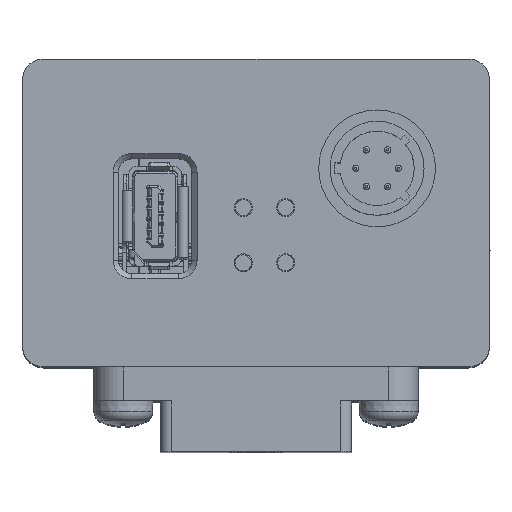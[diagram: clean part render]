
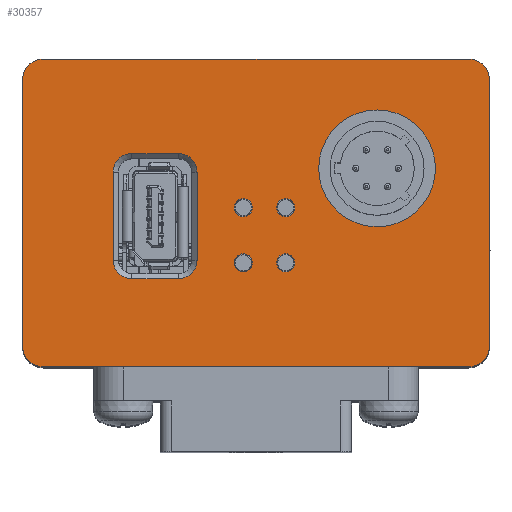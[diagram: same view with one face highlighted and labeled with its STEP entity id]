
A CAD part, top view. The second image highlights one B-rep face of the part: STEP entity #30357.
In plain terms, the highlighted planar face has unit normal (0, 0, 1).
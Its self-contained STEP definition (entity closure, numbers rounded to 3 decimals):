
#919=LINE('',#46922,#3485);
#923=LINE('',#46931,#3489);
#926=LINE('',#46939,#3492);
#928=LINE('',#46945,#3494);
#930=LINE('',#46954,#3496);
#931=LINE('',#46958,#3497);
#932=LINE('',#46962,#3498);
#933=LINE('',#46965,#3499);
#3485=VECTOR('',#37292,10.);
#3489=VECTOR('',#37302,10.);
#3492=VECTOR('',#37311,10.);
#3494=VECTOR('',#37319,10.);
#3496=VECTOR('',#37329,10.);
#3497=VECTOR('',#37332,10.);
#3498=VECTOR('',#37335,10.);
#3499=VECTOR('',#37338,10.);
#6369=PLANE('',#32710);
#7184=FACE_BOUND('',#9714,.T.);
#7185=FACE_BOUND('',#9715,.T.);
#7186=FACE_BOUND('',#9716,.T.);
#7187=FACE_BOUND('',#9717,.T.);
#7188=FACE_BOUND('',#9718,.T.);
#7189=FACE_BOUND('',#9719,.T.);
#7836=FACE_OUTER_BOUND('',#9713,.T.);
#9713=EDGE_LOOP('',(#21614,#21615,#21616,#21617,#21618,#21619,#21620,#21621));
#9714=EDGE_LOOP('',(#21622));
#9715=EDGE_LOOP('',(#21623));
#9716=EDGE_LOOP('',(#21624));
#9717=EDGE_LOOP('',(#21625));
#9718=EDGE_LOOP('',(#21626));
#9719=EDGE_LOOP('',(#21627,#21628,#21629,#21630,#21631,#21632,#21633,#21634));
#11332=CIRCLE('',#32193,5.5);
#11499=CIRCLE('',#32595,0.85);
#11501=CIRCLE('',#32600,0.85);
#11503=CIRCLE('',#32605,0.85);
#11505=CIRCLE('',#32610,0.85);
#11547=CIRCLE('',#32696,1.75);
#11549=CIRCLE('',#32700,1.75);
#11550=CIRCLE('',#32703,1.75);
#11551=CIRCLE('',#32706,1.75);
#11552=CIRCLE('',#32711,2.);
#11553=CIRCLE('',#32712,2.);
#11554=CIRCLE('',#32713,2.);
#11555=CIRCLE('',#32714,2.);
#12811=VERTEX_POINT('',#45317);
#13162=VERTEX_POINT('',#46586);
#13164=VERTEX_POINT('',#46593);
#13166=VERTEX_POINT('',#46600);
#13168=VERTEX_POINT('',#46607);
#13246=VERTEX_POINT('',#46913);
#13247=VERTEX_POINT('',#46915);
#13248=VERTEX_POINT('',#46920);
#13249=VERTEX_POINT('',#46925);
#13250=VERTEX_POINT('',#46929);
#13251=VERTEX_POINT('',#46933);
#13252=VERTEX_POINT('',#46937);
#13253=VERTEX_POINT('',#46941);
#13254=VERTEX_POINT('',#46950);
#13255=VERTEX_POINT('',#46951);
#13256=VERTEX_POINT('',#46953);
#13257=VERTEX_POINT('',#46955);
#13258=VERTEX_POINT('',#46957);
#13259=VERTEX_POINT('',#46959);
#13260=VERTEX_POINT('',#46961);
#13261=VERTEX_POINT('',#46963);
#15765=EDGE_CURVE('',#12811,#12811,#11332,.T.);
#16256=EDGE_CURVE('',#13162,#13162,#11499,.T.);
#16258=EDGE_CURVE('',#13164,#13164,#11501,.T.);
#16260=EDGE_CURVE('',#13166,#13166,#11503,.T.);
#16262=EDGE_CURVE('',#13168,#13168,#11505,.T.);
#16369=EDGE_CURVE('',#13246,#13247,#11547,.T.);
#16373=EDGE_CURVE('',#13248,#13246,#919,.T.);
#16376=EDGE_CURVE('',#13249,#13248,#11549,.T.);
#16378=EDGE_CURVE('',#13250,#13249,#923,.T.);
#16380=EDGE_CURVE('',#13251,#13250,#11550,.T.);
#16382=EDGE_CURVE('',#13252,#13251,#926,.T.);
#16384=EDGE_CURVE('',#13253,#13252,#11551,.T.);
#16385=EDGE_CURVE('',#13247,#13253,#928,.T.);
#16387=EDGE_CURVE('',#13254,#13255,#11552,.T.);
#16388=EDGE_CURVE('',#13254,#13256,#930,.T.);
#16389=EDGE_CURVE('',#13257,#13256,#11553,.T.);
#16390=EDGE_CURVE('',#13257,#13258,#931,.T.);
#16391=EDGE_CURVE('',#13259,#13258,#11554,.T.);
#16392=EDGE_CURVE('',#13259,#13260,#932,.T.);
#16393=EDGE_CURVE('',#13261,#13260,#11555,.T.);
#16394=EDGE_CURVE('',#13261,#13255,#933,.T.);
#21614=ORIENTED_EDGE('',*,*,#16387,.F.);
#21615=ORIENTED_EDGE('',*,*,#16388,.T.);
#21616=ORIENTED_EDGE('',*,*,#16389,.F.);
#21617=ORIENTED_EDGE('',*,*,#16390,.T.);
#21618=ORIENTED_EDGE('',*,*,#16391,.F.);
#21619=ORIENTED_EDGE('',*,*,#16392,.T.);
#21620=ORIENTED_EDGE('',*,*,#16393,.F.);
#21621=ORIENTED_EDGE('',*,*,#16394,.T.);
#21622=ORIENTED_EDGE('',*,*,#15765,.T.);
#21623=ORIENTED_EDGE('',*,*,#16256,.T.);
#21624=ORIENTED_EDGE('',*,*,#16258,.T.);
#21625=ORIENTED_EDGE('',*,*,#16260,.T.);
#21626=ORIENTED_EDGE('',*,*,#16262,.T.);
#21627=ORIENTED_EDGE('',*,*,#16369,.F.);
#21628=ORIENTED_EDGE('',*,*,#16373,.F.);
#21629=ORIENTED_EDGE('',*,*,#16376,.F.);
#21630=ORIENTED_EDGE('',*,*,#16378,.F.);
#21631=ORIENTED_EDGE('',*,*,#16380,.F.);
#21632=ORIENTED_EDGE('',*,*,#16382,.F.);
#21633=ORIENTED_EDGE('',*,*,#16384,.F.);
#21634=ORIENTED_EDGE('',*,*,#16385,.F.);
#30357=ADVANCED_FACE('',(#7836,#7184,#7185,#7186,#7187,#7188,#7189),#6369,
 .T.);
#32193=AXIS2_PLACEMENT_3D('',#45318,#35980,#35981);
#32595=AXIS2_PLACEMENT_3D('',#46587,#37020,#37021);
#32600=AXIS2_PLACEMENT_3D('',#46594,#37030,#37031);
#32605=AXIS2_PLACEMENT_3D('',#46601,#37040,#37041);
#32610=AXIS2_PLACEMENT_3D('',#46608,#37050,#37051);
#32696=AXIS2_PLACEMENT_3D('',#46916,#37284,#37285);
#32700=AXIS2_PLACEMENT_3D('',#46927,#37297,#37298);
#32703=AXIS2_PLACEMENT_3D('',#46935,#37306,#37307);
#32706=AXIS2_PLACEMENT_3D('',#46943,#37315,#37316);
#32710=AXIS2_PLACEMENT_3D('',#46949,#37325,#37326);
#32711=AXIS2_PLACEMENT_3D('',#46952,#37327,#37328);
#32712=AXIS2_PLACEMENT_3D('',#46956,#37330,#37331);
#32713=AXIS2_PLACEMENT_3D('',#46960,#37333,#37334);
#32714=AXIS2_PLACEMENT_3D('',#46964,#37336,#37337);
#35980=DIRECTION('center_axis',(0.,0.,-1.));
#35981=DIRECTION('ref_axis',(-1.,0.,0.));
#37020=DIRECTION('center_axis',(0.,0.,-1.));
#37021=DIRECTION('ref_axis',(1.,0.,0.));
#37030=DIRECTION('center_axis',(0.,0.,-1.));
#37031=DIRECTION('ref_axis',(1.,0.,0.));
#37040=DIRECTION('center_axis',(0.,0.,-1.));
#37041=DIRECTION('ref_axis',(1.,0.,0.));
#37050=DIRECTION('center_axis',(0.,0.,-1.));
#37051=DIRECTION('ref_axis',(1.,0.,0.));
#37284=DIRECTION('center_axis',(0.,0.,1.));
#37285=DIRECTION('ref_axis',(0.,1.,0.));
#37292=DIRECTION('',(-1.,0.,0.));
#37297=DIRECTION('center_axis',(0.,0.,1.));
#37298=DIRECTION('ref_axis',(1.,0.,0.));
#37302=DIRECTION('',(0.,1.,0.));
#37306=DIRECTION('center_axis',(0.,0.,1.));
#37307=DIRECTION('ref_axis',(0.,-1.,0.));
#37311=DIRECTION('',(1.,0.,0.));
#37315=DIRECTION('center_axis',(0.,0.,1.));
#37316=DIRECTION('ref_axis',(-1.,0.,0.));
#37319=DIRECTION('',(0.,-1.,0.));
#37325=DIRECTION('center_axis',(0.,0.,1.));
#37326=DIRECTION('ref_axis',(1.,0.,0.));
#37327=DIRECTION('center_axis',(0.,0.,-1.));
#37328=DIRECTION('ref_axis',(-0.707,0.707,0.));
#37329=DIRECTION('',(0.,-1.,0.));
#37330=DIRECTION('center_axis',(0.,0.,-1.));
#37331=DIRECTION('ref_axis',(-0.707,-0.707,0.));
#37332=DIRECTION('',(1.,0.,0.));
#37333=DIRECTION('center_axis',(0.,0.,-1.));
#37334=DIRECTION('ref_axis',(0.707,-0.707,0.));
#37335=DIRECTION('',(0.,1.,0.));
#37336=DIRECTION('center_axis',(0.,0.,-1.));
#37337=DIRECTION('ref_axis',(0.707,0.707,0.));
#37338=DIRECTION('',(-1.,0.,0.));
#45317=CARTESIAN_POINT('',(16.9,4.2,60.));
#45318=CARTESIAN_POINT('Origin',(11.4,4.2,60.));
#46586=CARTESIAN_POINT('',(-0.35,0.5,60.));
#46587=CARTESIAN_POINT('Origin',(-1.2,0.5,60.));
#46593=CARTESIAN_POINT('',(-0.35,-4.7,60.));
#46594=CARTESIAN_POINT('Origin',(-1.2,-4.7,60.));
#46600=CARTESIAN_POINT('',(3.65,-4.7,60.));
#46601=CARTESIAN_POINT('Origin',(2.8,-4.7,60.));
#46607=CARTESIAN_POINT('',(3.65,0.5,60.));
#46608=CARTESIAN_POINT('Origin',(2.8,0.5,60.));
#46913=CARTESIAN_POINT('',(-11.7,5.6,60.));
#46915=CARTESIAN_POINT('',(-13.45,3.85,60.));
#46916=CARTESIAN_POINT('Origin',(-11.7,3.85,60.));
#46920=CARTESIAN_POINT('',(-7.3,5.6,60.));
#46922=CARTESIAN_POINT('',(-5.85,5.6,60.));
#46925=CARTESIAN_POINT('',(-5.55,3.85,60.));
#46927=CARTESIAN_POINT('Origin',(-7.3,3.85,60.));
#46929=CARTESIAN_POINT('',(-5.55,-4.45,60.));
#46931=CARTESIAN_POINT('',(-5.55,1.925,60.));
#46933=CARTESIAN_POINT('',(-7.3,-6.2,60.));
#46935=CARTESIAN_POINT('Origin',(-7.3,-4.45,60.));
#46937=CARTESIAN_POINT('',(-11.7,-6.2,60.));
#46939=CARTESIAN_POINT('',(-3.65,-6.2,60.));
#46941=CARTESIAN_POINT('',(-13.45,-4.45,60.));
#46943=CARTESIAN_POINT('Origin',(-11.7,-4.45,60.));
#46945=CARTESIAN_POINT('',(-13.45,-2.225,60.));
#46949=CARTESIAN_POINT('Origin',(0.,0.,
60.));
#46950=CARTESIAN_POINT('',(-22.,12.5,60.));
#46951=CARTESIAN_POINT('',(-20.,14.5,60.));
#46952=CARTESIAN_POINT('Origin',(-20.,12.5,60.));
#46953=CARTESIAN_POINT('',(-22.,-12.5,60.));
#46954=CARTESIAN_POINT('',(-22.,-14.5,60.));
#46955=CARTESIAN_POINT('',(-20.,-14.5,60.));
#46956=CARTESIAN_POINT('Origin',(-20.,-12.5,60.));
#46957=CARTESIAN_POINT('',(20.,-14.5,60.));
#46958=CARTESIAN_POINT('',(22.,-14.5,60.));
#46959=CARTESIAN_POINT('',(22.,-12.5,60.));
#46960=CARTESIAN_POINT('Origin',(20.,-12.5,60.));
#46961=CARTESIAN_POINT('',(22.,12.5,60.));
#46962=CARTESIAN_POINT('',(22.,14.5,60.));
#46963=CARTESIAN_POINT('',(20.,14.5,60.));
#46964=CARTESIAN_POINT('Origin',(20.,12.5,60.));
#46965=CARTESIAN_POINT('',(-22.,14.5,60.));
